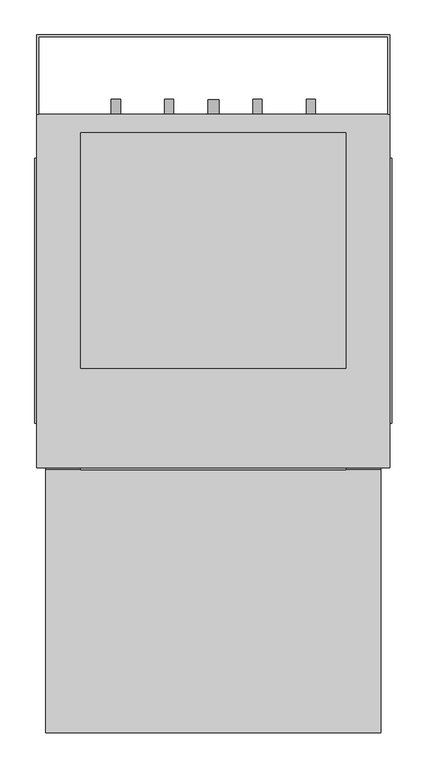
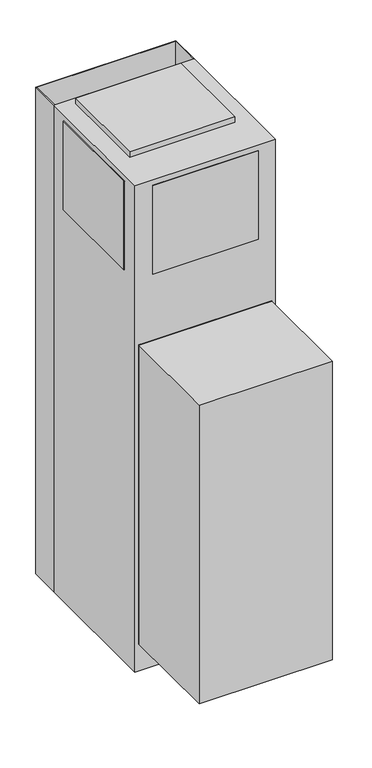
"""IFC4 building model written with IfcOpenShell, lengths in millimetres: proxy geometry, Exposed_Modular_Fan_Coil_Unit_-_MXY_-_IEC_-_4-Pipe_-_NoRisers_2022 : Size 10 - 277v/60Hz/1Ph - 4/1 Coil."""

from ifc_helpers import new_model, si_unit, point, frame, frame_2d, origin, origin_with_axes, place, context, project, spatial, polyline, circle_curve, trimmed, segment, composite_curve, outline, extrude, source, transform, mapped, element, save


def mechanical_equipment_7a93d874(model_context):
    return source(origin(), model_context, "Body", "SweptSolid", [
        extrude(outline(polyline([(1356.1480703, 630.3118862), (1346.2, 662.4852728), (1488.3709244, 662.4852728), (1465.3489183, 630.3118862), (1356.1480703, 630.3118862)])), frame((0.0, -371.475, 0.0), z_axis=(0.0, 1.0, 0.0), x_axis=(0.0, 0.0, 1.0)), (0.0, 0.0, 1.0), 3.175),
        extrude(outline(polyline([(1435.1473557, 669.2436058), (1431.9449632, 695.325), (1461.1738042, 695.325), (1469.2382193, 669.2436058), (1435.1473557, 669.2436058)])), frame((0.0, -371.475, 0.0), z_axis=(0.0, 1.0, 0.0), x_axis=(0.0, 0.0, 1.0)), (0.0, 0.0, 1.0), 3.175),
        extrude(outline(polyline([(1383.2838288, 695.325), (1379.6183279, 669.2436058), (1346.2, 669.2436058), (1354.8342372, 695.325), (1383.2838288, 695.325)])), frame((0.0, -371.475, 0.0), z_axis=(0.0, 1.0, 0.0), x_axis=(0.0, 0.0, 1.0)), (0.0, 0.0, 1.0), 3.175),
        extrude(outline(polyline([(1422.5989903, 695.325), (1424.8808166, 669.2436058), (1388.9432681, 669.2436058), (1391.6845331, 695.325), (1422.5989903, 695.325)])), frame((0.0, -371.475, 0.0), z_axis=(0.0, 1.0, 0.0), x_axis=(0.0, 0.0, 1.0)), (0.0, 0.0, 1.0), 3.175),
        extrude(outline(polyline([(746.125, -368.3), (746.125, -822.325), (168.275, -822.325), (168.275, -368.3), (746.125, -368.3)])), frame((0.0, 0.0, 127.0), z_axis=(0.0, 0.0, 1.0), x_axis=(1.0, 0.0, 0.0)), (0.0, 0.0, 1.0), 1371.6),
        extrude(outline(polyline([(152.4, 381.0), (762.0, 381.0), (762.0, 244.475), (758.825, 244.475), (758.825, 377.825), (155.575, 377.825), (155.575, 244.475), (152.4, 244.475), (152.4, 381.0)])), origin_with_axes(), (0.0, 0.0, 1.0), 2235.2),
        extrude(outline(composite_curve([segment(trimmed(circle_curve(frame_2d((990.6, 533.4)), 7.9375), [point((990.6, 541.3375))], [point((990.6, 525.4625))], False, "CARTESIAN"), True, "CONTINUOUS"), segment(trimmed(circle_curve(frame_2d((990.6, 533.4)), 7.9375), [point((990.6, 525.4625))], [point((990.6, 541.3375))], False, "CARTESIAN"), True, "CONTINUOUS")], self_intersect=False)), frame((0.0, 244.475, 0.0), z_axis=(0.0, 1.0, 0.0), x_axis=(0.0, 0.0, 1.0)), (0.0, 0.0, 1.0), 25.4),
        extrude(outline(composite_curve([segment(trimmed(circle_curve(frame_2d((990.6, 381.0)), 7.9375), [point((990.6, 388.9375))], [point((990.6, 373.0625))], False, "CARTESIAN"), True, "CONTINUOUS"), segment(trimmed(circle_curve(frame_2d((990.6, 381.0)), 7.9375), [point((990.6, 373.0625))], [point((990.6, 388.9375))], False, "CARTESIAN"), True, "CONTINUOUS")], self_intersect=False)), frame((0.0, 244.475, 0.0), z_axis=(0.0, 1.0, 0.0), x_axis=(0.0, 0.0, 1.0)), (0.0, 0.0, 1.0), 25.4),
        extrude(outline(composite_curve([segment(trimmed(circle_curve(frame_2d((76.2, 457.2)), 9.525), [point((76.2, 466.725))], [point((76.2, 447.675))], False, "CARTESIAN"), True, "CONTINUOUS"), segment(trimmed(circle_curve(frame_2d((76.2, 457.2)), 9.525), [point((76.2, 447.675))], [point((76.2, 466.725))], False, "CARTESIAN"), True, "CONTINUOUS")], self_intersect=False)), frame((0.0, 244.475, 0.0), z_axis=(0.0, 1.0, 0.0), x_axis=(0.0, 0.0, 1.0)), (0.0, 0.0, 1.0), 25.4),
        extrude(outline(composite_curve([segment(trimmed(circle_curve(frame_2d((990.6, 625.475)), 7.9375), [point((990.6, 633.4125))], [point((990.6, 617.5375))], False, "CARTESIAN"), True, "CONTINUOUS"), segment(trimmed(circle_curve(frame_2d((990.6, 625.475)), 7.9375), [point((990.6, 617.5375))], [point((990.6, 633.4125))], False, "CARTESIAN"), True, "CONTINUOUS")], self_intersect=False)), frame((0.0, 244.475, 0.0), z_axis=(0.0, 1.0, 0.0), x_axis=(0.0, 0.0, 1.0)), (0.0, 0.0, 1.0), 25.4),
        extrude(outline(composite_curve([segment(trimmed(circle_curve(frame_2d((990.6, 288.925)), 7.9375), [point((990.6, 296.8625))], [point((990.6, 280.9875))], False, "CARTESIAN"), True, "CONTINUOUS"), segment(trimmed(circle_curve(frame_2d((990.6, 288.925)), 7.9375), [point((990.6, 280.9875))], [point((990.6, 296.8625))], False, "CARTESIAN"), True, "CONTINUOUS")], self_intersect=False)), frame((0.0, 244.475, 0.0), z_axis=(0.0, 1.0, 0.0), x_axis=(0.0, 0.0, 1.0)), (0.0, 0.0, 1.0), 25.4),
        extrude(outline(polyline([(746.125, -368.3), (168.275, -368.3), (168.275, -365.125), (746.125, -365.125), (746.125, -368.3)])), frame((0.0, 0.0, 127.0), z_axis=(0.0, 0.0, 1.0), x_axis=(1.0, 0.0, 0.0)), (0.0, 0.0, 1.0), 1371.6),
        extrude(outline(polyline([(765.175, 168.275), (765.175, -288.925), (762.0, -288.925), (762.0, 168.275), (765.175, 168.275)])), frame((0.0, 0.0, 1803.4), z_axis=(0.0, 0.0, 1.0), x_axis=(1.0, 0.0, 0.0)), (0.0, 0.0, 1.0), 406.4),
        extrude(outline(polyline([(149.225, -288.925), (149.225, 168.275), (152.4, 168.275), (152.4, -288.925), (149.225, -288.925)])), frame((0.0, 0.0, 1803.4), z_axis=(0.0, 0.0, 1.0), x_axis=(1.0, 0.0, 0.0)), (0.0, 0.0, 1.0), 406.4),
        extrude(outline(polyline([(685.8, -368.3), (228.6, -368.3), (228.6, -365.125), (685.8, -365.125), (685.8, -368.3)])), frame((0.0, 0.0, 1803.4), z_axis=(0.0, 0.0, 1.0), x_axis=(1.0, 0.0, 0.0)), (0.0, 0.0, 1.0), 406.4),
        extrude(outline(polyline([(685.8, 212.725), (685.8, -193.675), (228.6, -193.675), (228.6, 212.725), (685.8, 212.725)])), frame((0.0, 0.0, 2235.2), z_axis=(0.0, 0.0, 1.0), x_axis=(1.0, 0.0, 0.0)), (0.0, 0.0, 1.0), 25.4),
        extrude(outline(polyline([(762.0, 244.475), (762.0, -365.125), (152.4, -365.125), (152.4, 244.475), (762.0, 244.475)])), origin_with_axes(), (0.0, 0.0, 1.0), 2235.2),
    ])


if __name__ == "__main__":
    model = new_model("IFC4")
    model_context = context("Model", 3, world=origin())
    ifc_project = project(units=[si_unit("LENGTHUNIT", "METRE", prefix="MILLI")], contexts=[model_context])
    site = spatial("IfcSite", under=ifc_project)
    building = spatial("IfcBuilding", under=site)
    placement = place(None, origin())
    mechanical_equipment_shape = mechanical_equipment_7a93d874(model_context)
    element("IfcBuildingElementProxy", 1, Name="Exposed_Modular_Fan_Coil_Unit_-_MXY_-_IEC_-_4-Pipe_-_NoRisers_2022 : Size 10 - 277v/60Hz/1Ph - 4/1 Coil", ObjectType="Exposed_Modular_Fan_Coil_Unit_-_MXY_-_IEC_-_4-Pipe_-_NoRisers_2022 : Size 10 - 277v/60Hz/1Ph - 4/1 Coil", at=placement, inside=building, context=model_context, shape_type="MappedRepresentation", body=[
        mapped(mechanical_equipment_shape, transform((0.0, 0.0, 0.0), x_axis=(1.0, 0.0, 0.0), y_axis=(0.0, 1.0, 0.0), z_axis=(0.0, 0.0, 1.0))),
    ])
    save(model, "model.ifc")
